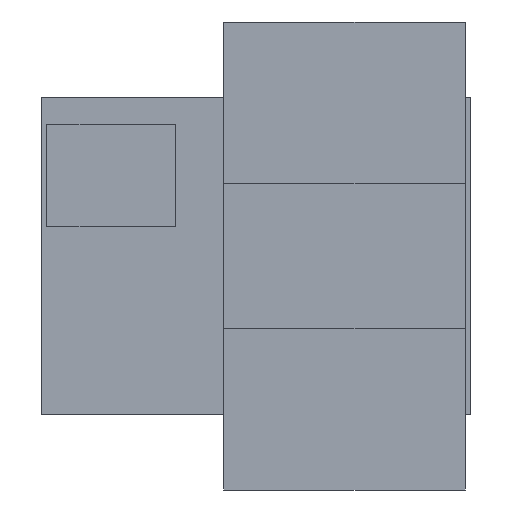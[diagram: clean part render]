
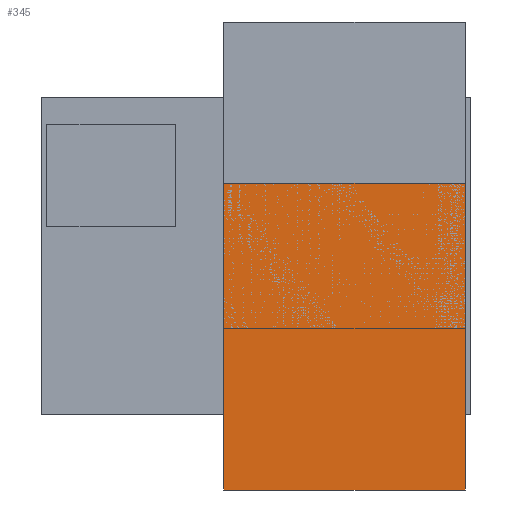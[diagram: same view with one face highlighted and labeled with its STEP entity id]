
A CAD part, front view. The second image highlights one B-rep face of the part: STEP entity #345.
In plain terms, the highlighted planar face has unit normal (0, -1, 0).
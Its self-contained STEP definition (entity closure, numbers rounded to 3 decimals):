
#198 = CARTESIAN_POINT ( 'NONE',  ( 4.951, 0., 1.728 ) ) ;
#199 = VERTEX_POINT ( 'NONE', #198 ) ;
#200 = CARTESIAN_POINT ( 'NONE',  ( 4.951, 0., -5.538 ) ) ;
#201 = VERTEX_POINT ( 'NONE', #200 ) ;
#202 = CARTESIAN_POINT ( 'NONE',  ( 4.951, 0., 1.728 ) ) ;
#203 = DIRECTION ( 'NONE',  ( 0., 0., -1. ) ) ;
#204 = VECTOR ( 'NONE', #203, 1000. ) ;
#205 = LINE ( 'NONE', #202, #204 ) ;
#206 = EDGE_CURVE ( 'NONE', #199, #201, #205, .T. ) ;
#238 = CARTESIAN_POINT ( 'NONE',  ( -0.764, 0., -5.538 ) ) ;
#239 = VERTEX_POINT ( 'NONE', #238 ) ;
#240 = CARTESIAN_POINT ( 'NONE',  ( -0.764, 0., -5.538 ) ) ;
#241 = DIRECTION ( 'NONE',  ( -1., 0., 0. ) ) ;
#242 = VECTOR ( 'NONE', #241, 1000. ) ;
#243 = LINE ( 'NONE', #240, #242 ) ;
#244 = EDGE_CURVE ( 'NONE', #201, #239, #243, .T. ) ;
#269 = CARTESIAN_POINT ( 'NONE',  ( -0.764, 0., 1.728 ) ) ;
#270 = VERTEX_POINT ( 'NONE', #269 ) ;
#271 = CARTESIAN_POINT ( 'NONE',  ( -0.764, 0., 1.728 ) ) ;
#272 = DIRECTION ( 'NONE',  ( 0., 0., 1. ) ) ;
#273 = VECTOR ( 'NONE', #272, 1000. ) ;
#274 = LINE ( 'NONE', #271, #273 ) ;
#275 = EDGE_CURVE ( 'NONE', #239, #270, #274, .T. ) ;
#300 = CARTESIAN_POINT ( 'NONE',  ( -0.764, 0., 1.728 ) ) ;
#301 = DIRECTION ( 'NONE',  ( 1., 0., 0. ) ) ;
#302 = VECTOR ( 'NONE', #301, 1000. ) ;
#303 = LINE ( 'NONE', #300, #302 ) ;
#304 = EDGE_CURVE ( 'NONE', #270, #199, #303, .T. ) ;
#334 = ORIENTED_EDGE ( 'NONE', *, *, #206, .F. ) ;
#335 = ORIENTED_EDGE ( 'NONE', *, *, #304, .F. ) ;
#336 = ORIENTED_EDGE ( 'NONE', *, *, #275, .F. ) ;
#337 = ORIENTED_EDGE ( 'NONE', *, *, #244, .F. ) ;
#338 = EDGE_LOOP ( 'NONE', ( #334, #335, #336, #337 ) ) ;
#339 = FACE_OUTER_BOUND ( 'NONE', #338, .T. ) ;
#340 = CARTESIAN_POINT ( 'NONE',  ( 2.094, 0., -1.905 ) ) ;
#341 = DIRECTION ( 'NONE',  ( 0., -1., 0. ) ) ;
#342 = DIRECTION ( 'NONE',  ( 0., 0., -1. ) ) ;
#343 = AXIS2_PLACEMENT_3D ( 'NONE', #340, #341, #342 ) ;
#344 = PLANE ( 'NONE', #343 ) ;
#345 = ADVANCED_FACE ( 'NONE', ( #339 ), #344, .T. ) ;
